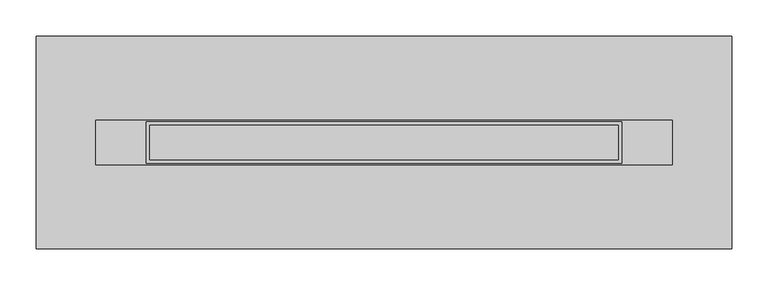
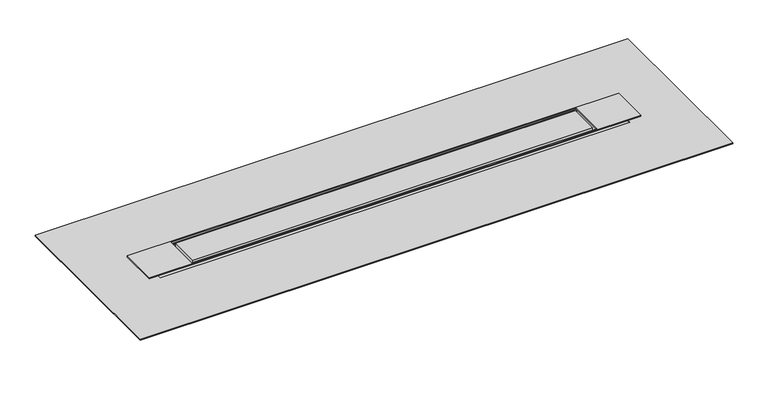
"""IFC4 building model written with IfcOpenShell, lengths in millimetres: sanitary terminal geometry, NLRS_PF_52_UN_Compact TAF Modulo Design_Easydrain : Compact TAF Modulo Design Z2."""

from ifc_helpers import new_model, si_unit, frame, origin, place, context, project, spatial, polyline, circle_curve, ellipse_curve, outline, extrude, source, transform, mapped, element, save
from ifc_brep_helpers import plane_surface, cylinder_surface, advanced_brep


def sanitary_terminal_c62dae5d(model_context):
    return source(origin(), model_context, "Body", "SolidModel", [
        extrude(outline(polyline([(-175.0, -24.0), (-175.0, 24.0), (475.0, 24.0), (475.0, -24.0), (-175.0, -24.0)])), frame((0.0, 0.0, -7.0), z_axis=(0.0, 0.0, 1.0), x_axis=(1.0, 0.0, 0.0)), (0.0, 0.0, 1.0), 7.0),
        extrude(outline(polyline([(550.0, 31.0), (550.0, -31.0), (-250.0, -31.0), (-250.0, 31.0), (550.0, 31.0)]), holes=[polyline([(480.0, 29.0), (-180.0, 29.0), (-180.0, -29.0), (480.0, -29.0), (480.0, 29.0)])]), frame((0.0, 0.0, -2.0), z_axis=(0.0, 0.0, 1.0), x_axis=(1.0, 0.0, 0.0)), (0.0, 0.0, 1.0), 2.0),
        extrude(outline(polyline([(632.5, 147.5), (632.5, -147.5), (-332.5, -147.5), (-332.5, 147.5), (632.5, 147.5)]), holes=[polyline([(532.5, 31.0), (-232.5, 31.0), (-232.5, -31.0), (532.5, -31.0), (532.5, 31.0)])]), frame((0.0, 0.0, -8.0), z_axis=(0.0, 0.0, 1.0), x_axis=(1.0, 0.0, 0.0)), (0.0, 0.0, 1.0), 2.0),
        advanced_brep(
        [(-232.5, -31.0, -25.0), (40.0, -31.0, -27.0), (40.0, -31.0, -70.0), (260.0, -31.0, -70.0), (260.0, -31.0, -27.0), (532.5, -31.0, -25.0), (532.5, -31.0, -9.0), (-232.5, -31.0, -9.0), (150.0, -31.0, -25.0), (150.0, -31.0, -65.0), (532.5, 31.0, -25.0), (260.0, 31.0, -27.0), (260.0, 31.0, -70.0), (40.0, 31.0, -70.0), (40.0, 31.0, -27.0), (-232.5, 31.0, -25.0), (-232.5, 31.0, -9.0), (532.5, 31.0, -9.0), (-212.5, 0.0, -25.146789), (-172.5, 0.0, -25.440367), (532.5, 30.0, -9.0), (532.5, -30.0, -9.0), (550.0, 47.5, -7.0), (-250.0, 47.5, -7.0), (-250.0, -64.5, -7.0), (550.0, -64.5, -7.0), (-232.5, -30.0, -9.0), (-232.5, 30.0, -9.0), (472.5, 0.0, -25.440367), (512.5, 0.0, -25.146789), (150.0, -50.0, -25.0), (150.0, -50.0, -65.0), (550.0, 47.5, -9.0), (550.0, -64.5, -9.0), (-250.0, -64.5, -9.0), (-250.0, 47.5, -9.0), (-212.5, 0.0, -70.0), (-172.5, 0.0, -70.0), (472.5, 0.0, -70.0), (512.5, 0.0, -70.0)],
        [
            (0, 1),
            (1, 2),
            (2, 3),
            (3, 4),
            (4, 5),
            (5, 6),
            (6, 7),
            (7, 0),
            (8, 9, circle_curve(frame((150.0, -31.0, -45.0), z_axis=(0.0, 1.0, 0.0), x_axis=(0.0, 0.0, -1.0)), 20.0)),
            (9, 8, circle_curve(frame((150.0, -31.0, -45.0), z_axis=(0.0, 1.0, 0.0), x_axis=(0.0, 0.0, -1.0)), 20.0)),
            (10, 11),
            (11, 12),
            (12, 13),
            (13, 14),
            (14, 15),
            (15, 16),
            (16, 17),
            (17, 10),
            (0, 15),
            (14, 1),
            (18, 19, ellipse_curve(frame((-192.5, 0.0, -25.293578), z_axis=(0.007339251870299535, 0.0, 0.9999730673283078), x_axis=(-0.9999730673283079, 0.0, 0.007339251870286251)), 20.0005387, 20.0)),
            (19, 18, ellipse_curve(frame((-192.5, 0.0, -25.293578), z_axis=(0.007339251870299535, 0.0, 0.9999730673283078), x_axis=(-0.9999730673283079, 0.0, 0.007339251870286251)), 20.0005387, 20.0)),
            (5, 10),
            (17, 20),
            (20, 21),
            (21, 6),
            (22, 23),
            (23, 24),
            (24, 25),
            (25, 22),
            (7, 26),
            (26, 27),
            (27, 16),
            (13, 2),
            (12, 3),
            (11, 4),
            (28, 29, ellipse_curve(frame((492.5, 0.0, -25.293578), z_axis=(-0.00733925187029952, 0.0, 0.9999730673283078), x_axis=(0.9999730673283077, 0.0, 0.007339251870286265)), 20.0005387, 20.0)),
            (29, 28, ellipse_curve(frame((492.5, 0.0, -25.293578), z_axis=(-0.00733925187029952, 0.0, 0.9999730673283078), x_axis=(0.9999730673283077, 0.0, 0.007339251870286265)), 20.0005387, 20.0)),
            (30, 31, circle_curve(frame((150.0, -50.0, -45.0), z_axis=(0.0, -1.0, 0.0), x_axis=(0.0, 0.0, -1.0)), 20.0)),
            (31, 30, circle_curve(frame((150.0, -50.0, -45.0), z_axis=(0.0, -1.0, 0.0), x_axis=(0.0, 0.0, -1.0)), 20.0)),
            (31, 9),
            (8, 30),
            (32, 33),
            (33, 34),
            (34, 35),
            (35, 32),
            (22, 32),
            (35, 23),
            (34, 24),
            (33, 25),
            (36, 37, circle_curve(frame((-192.5, 0.0, -70.0), z_axis=(0.0, 0.0, -1.0), x_axis=(1.0, 0.0, 0.0)), 20.0)),
            (37, 36, circle_curve(frame((-192.5, 0.0, -70.0), z_axis=(0.0, 0.0, -1.0), x_axis=(1.0, 0.0, 0.0)), 20.0)),
            (38, 39, circle_curve(frame((492.5, 0.0, -70.0), z_axis=(0.0, 0.0, -1.0), x_axis=(1.0, 0.0, 0.0)), 20.0)),
            (39, 38, circle_curve(frame((492.5, 0.0, -70.0), z_axis=(0.0, 0.0, -1.0), x_axis=(1.0, 0.0, 0.0)), 20.0)),
            (37, 19),
            (18, 36),
            (39, 29),
            (28, 38),
        ],
        [
            plane_surface(frame((-232.5, -31.0, -25.0), z_axis=(0.0, -1.0, 0.0), x_axis=(0.9999730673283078, 0.0, -0.007339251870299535))),
            plane_surface(frame((-232.5, 31.0, -25.0), z_axis=(0.0, 1.0, 0.0), x_axis=(-0.9999730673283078, 0.0, 0.007339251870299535))),
            plane_surface(frame((-232.5, -31.0, -25.0), z_axis=(-0.007339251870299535, 0.0, -0.9999730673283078), x_axis=(0.0, 1.0, 0.0))),
            plane_surface(frame((532.5, -31.0, -25.0), z_axis=(1.0, 0.0, 0.0), x_axis=(0.0, 1.0, 0.0))),
            plane_surface(frame((532.5, -31.0, -7.0), z_axis=(0.0, 0.0, 1.0), x_axis=(0.0, 1.0, 0.0))),
            plane_surface(frame((-232.5, -31.0, -7.0), z_axis=(-1.0, 0.0, 0.0), x_axis=(0.0, 1.0, 0.0))),
            plane_surface(frame((40.0, -31.0, -27.0), z_axis=(-1.0, 0.0, 0.0), x_axis=(0.0, 1.0, 0.0))),
            plane_surface(frame((40.0, -31.0, -70.0), z_axis=(0.0, 0.0, -1.0), x_axis=(0.0, 1.0, 0.0))),
            plane_surface(frame((260.0, -31.0, -70.0), z_axis=(1.0, 0.0, 0.0), x_axis=(0.0, 1.0, 0.0))),
            plane_surface(frame((260.0, -31.0, -27.0), z_axis=(0.00733925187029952, 0.0, -0.9999730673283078), x_axis=(0.0, 1.0, 0.0))),
            plane_surface(frame((150.0, -50.0, -45.0), z_axis=(0.0, -1.0, 0.0), x_axis=(1.0, 0.0, 0.0))),
            cylinder_surface(frame((150.0, 0.0, -45.0), z_axis=(0.0, 1.0, 0.0), x_axis=(0.0, 0.0, -1.0)), 20.0),
            plane_surface(frame((532.5, 30.0, -9.0), z_axis=(0.0, 0.0, -1.0), x_axis=(0.0, 1.0, 0.0))),
            plane_surface(frame((550.0, 47.5, -7.0), z_axis=(0.0, 1.0, 0.0), x_axis=(0.0, 0.0, -1.0))),
            plane_surface(frame((-250.0, 47.5, -7.0), z_axis=(-1.0, 0.0, 0.0), x_axis=(0.0, 0.0, -1.0))),
            plane_surface(frame((-250.0, -64.5, -7.0), z_axis=(0.0, -1.0, 0.0), x_axis=(0.0, 0.0, -1.0))),
            plane_surface(frame((550.0, -64.5, -7.0), z_axis=(1.0, 0.0, 0.0), x_axis=(0.0, 0.0, -1.0))),
            plane_surface(frame((-172.5, 0.0, -70.0), z_axis=(0.0, 0.0, -1.0), x_axis=(0.0, -1.0, 0.0))),
            cylinder_surface(frame((-192.5, 0.0, -70.0), z_axis=(0.0, 0.0, 1.0), x_axis=(1.0, 0.0, 0.0)), 20.0),
            cylinder_surface(frame((492.5, 0.0, 0.0), z_axis=(0.0, 0.0, 1.0), x_axis=(1.0, 0.0, 0.0)), 20.0),
        ],
        [
            (0, [[1, 2, 3, 4, 5, 6, 7, 8], [9, 10]]),
            (1, [[11, 12, 13, 14, 15, 16, 17, 18]]),
            (2, [[-1, 19, -15, 20], [21, 22]]),
            (3, [[23, -18, 24, 25, 26, -6]]),
            (4, [[27, 28, 29, 30]]),
            (5, [[-19, -8, 31, 32, 33, -16]]),
            (6, [[-2, -20, -14, 34]]),
            (7, [[-3, -34, -13, 35]]),
            (8, [[-4, -35, -12, 36]]),
            (9, [[-5, -36, -11, -23], [37, 38]]),
            (10, [[39, 40]]),
            (11, [[-40, 41, -9, 42]]),
            (11, [[-39, -42, -10, -41]]),
            (12, [[43, 44, 45, 46], [-7, -26, -25, -24, -17, -33, -32, -31]]),
            (13, [[-27, 47, -46, 48]]),
            (14, [[-28, -48, -45, 49]]),
            (15, [[-29, -49, -44, 50]]),
            (16, [[-30, -50, -43, -47]]),
            (17, [[51, 52]]),
            (17, [[53, 54]]),
            (18, [[-52, 55, -21, 56]]),
            (18, [[-51, -56, -22, -55]]),
            (19, [[-54, 57, -37, 58]]),
            (19, [[-53, -58, -38, -57]]),
        ],
    ),
    ])


if __name__ == "__main__":
    model = new_model("IFC4")
    model_context = context("Model", 3, world=origin())
    ifc_project = project(units=[si_unit("LENGTHUNIT", "METRE", prefix="MILLI")], contexts=[model_context])
    site = spatial("IfcSite", under=ifc_project)
    building = spatial("IfcBuilding", under=site)
    placement = place(None, origin())
    sanitary_terminal_shape = sanitary_terminal_c62dae5d(model_context)
    element("IfcSanitaryTerminal", 1, ObjectType="NLRS_PF_52_UN_Compact TAF Modulo Design_Easydrain : Compact TAF Modulo Design Z2", at=placement, inside=building, context=model_context, shape_type="MappedRepresentation", body=[
        mapped(sanitary_terminal_shape, transform((0.0, 0.0, 0.0), x_axis=(1.0, 0.0, 0.0), y_axis=(0.0, 1.0, 0.0), z_axis=(0.0, 0.0, 1.0))),
    ])
    save(model, "model.ifc")
